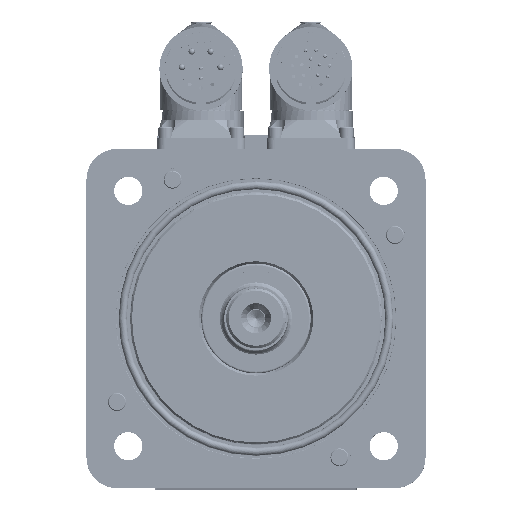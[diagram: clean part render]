
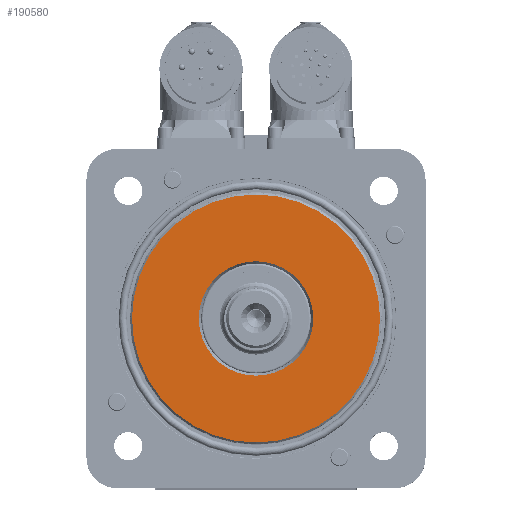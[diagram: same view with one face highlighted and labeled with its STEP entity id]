
A CAD part, top view. The second image highlights one B-rep face of the part: STEP entity #190580.
In plain terms, the highlighted planar face has unit normal (0, 0, 1).
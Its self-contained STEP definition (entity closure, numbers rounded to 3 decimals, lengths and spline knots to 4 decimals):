
#6281 = AXIS2_PLACEMENT_3D ( 'NONE', #284986, #237384, #427969 ) ;
#16063 = CARTESIAN_POINT ( 'NONE',  ( 0., 0., 0.118 ) ) ;
#19247 = DIRECTION ( 'NONE',  ( 0., 0., -1. ) ) ;
#30547 = ORIENTED_EDGE ( 'NONE', *, *, #111838, .T. ) ;
#41156 = CARTESIAN_POINT ( 'NONE',  ( -1.5548, 0., 0.118 ) ) ;
#54951 = DIRECTION ( 'NONE',  ( 1., 0., 0. ) ) ;
#70434 = AXIS2_PLACEMENT_3D ( 'NONE', #72676, #349725, #534517 ) ;
#72676 = CARTESIAN_POINT ( 'NONE',  ( 0., 0., 0.118 ) ) ;
#78506 = EDGE_LOOP ( 'NONE', ( #30547, #334642 ) ) ;
#111838 = EDGE_CURVE ( 'NONE', #315543, #284205, #396795, .T. ) ;
#125214 = EDGE_LOOP ( 'NONE', ( #250769, #267418 ) ) ;
#158142 = CIRCLE ( 'NONE', #576846, 0.7174 ) ;
#163623 = AXIS2_PLACEMENT_3D ( 'NONE', #517015, #19247, #248720 ) ;
#178991 = CARTESIAN_POINT ( 'NONE',  ( 0., 0., 0.118 ) ) ;
#190580 = ADVANCED_FACE ( 'NONE', ( #206965, #478187 ), #436420, .F. ) ;
#206965 = FACE_BOUND ( 'NONE', #125214, .T. ) ;
#237384 = DIRECTION ( 'NONE',  ( 0., 0., 1. ) ) ;
#248720 = DIRECTION ( 'NONE',  ( -1., 0., 0. ) ) ;
#250769 = ORIENTED_EDGE ( 'NONE', *, *, #425770, .F. ) ;
#267418 = ORIENTED_EDGE ( 'NONE', *, *, #501822, .F. ) ;
#282524 = VERTEX_POINT ( 'NONE', #283953 ) ;
#283953 = CARTESIAN_POINT ( 'NONE',  ( 0.7174, 0., 0.118 ) ) ;
#284205 = VERTEX_POINT ( 'NONE', #426942 ) ;
#284986 = CARTESIAN_POINT ( 'NONE',  ( 0., 0., 0.118 ) ) ;
#310920 = CARTESIAN_POINT ( 'NONE',  ( -0.7174, 0., 0.118 ) ) ;
#315543 = VERTEX_POINT ( 'NONE', #41156 ) ;
#320707 = CIRCLE ( 'NONE', #6281, 1.5548 ) ;
#326141 = DIRECTION ( 'NONE',  ( 0., 0., 1. ) ) ;
#334642 = ORIENTED_EDGE ( 'NONE', *, *, #380716, .T. ) ;
#349725 = DIRECTION ( 'NONE',  ( 0., 0., 1. ) ) ;
#360794 = DIRECTION ( 'NONE',  ( 1., 0., 0. ) ) ;
#380716 = EDGE_CURVE ( 'NONE', #284205, #315543, #320707, .T. ) ;
#389176 = VERTEX_POINT ( 'NONE', #310920 ) ;
#396795 = CIRCLE ( 'NONE', #568261, 1.5548 ) ;
#425770 = EDGE_CURVE ( 'NONE', #282524, #389176, #555862, .T. ) ;
#426942 = CARTESIAN_POINT ( 'NONE',  ( 1.5548, 0., 0.118 ) ) ;
#427969 = DIRECTION ( 'NONE',  ( 1., 0., 0. ) ) ;
#436420 = PLANE ( 'NONE',  #163623 ) ;
#478187 = FACE_OUTER_BOUND ( 'NONE', #78506, .T. ) ;
#497912 = DIRECTION ( 'NONE',  ( 0., 0., 1. ) ) ;
#501822 = EDGE_CURVE ( 'NONE', #389176, #282524, #158142, .T. ) ;
#517015 = CARTESIAN_POINT ( 'NONE',  ( 0., 1.5548, 0.118 ) ) ;
#534517 = DIRECTION ( 'NONE',  ( 1., 0., 0. ) ) ;
#555862 = CIRCLE ( 'NONE', #70434, 0.7174 ) ;
#568261 = AXIS2_PLACEMENT_3D ( 'NONE', #178991, #497912, #360794 ) ;
#576846 = AXIS2_PLACEMENT_3D ( 'NONE', #16063, #326141, #54951 ) ;
